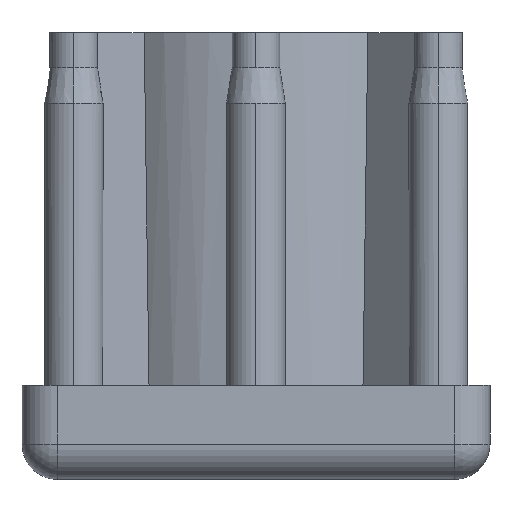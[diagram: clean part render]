
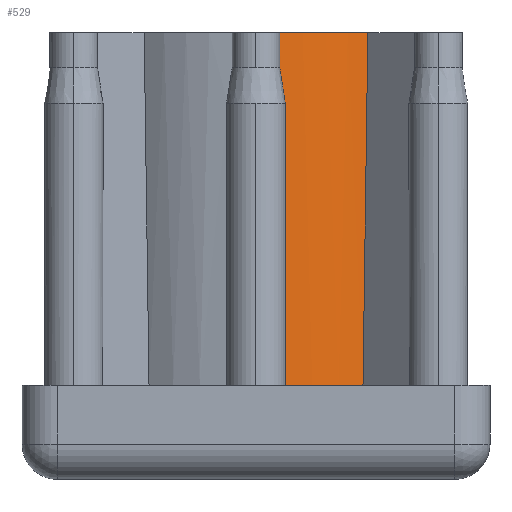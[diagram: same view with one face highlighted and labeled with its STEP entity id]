
A CAD part, left-side view. The second image highlights one B-rep face of the part: STEP entity #529.
In plain terms, the highlighted cylindrical face has radius 15 mm (diameter 30 mm), a partial arc.
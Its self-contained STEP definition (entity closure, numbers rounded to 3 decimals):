
#197 = EDGE_LOOP ( 'NONE', ( #2560, #943, #1247, #2655, #2478, #2258 ) ) ;
#248 = VERTEX_POINT ( 'NONE', #1844 ) ;
#350 = CARTESIAN_POINT ( 'NONE',  ( -798.546, -559.951, 30. ) ) ;
#414 = DIRECTION ( 'NONE',  ( 0., 0., 1. ) ) ;
#429 = CARTESIAN_POINT ( 'NONE',  ( -801.753, -552.84, 24. ) ) ;
#457 = LINE ( 'NONE', #2411, #655 ) ;
#529 = ADVANCED_FACE ( 'NONE', ( #1691 ), #2674, .T. ) ;
#596 = EDGE_CURVE ( 'NONE', #2660, #1196, #2846, .T. ) ;
#604 = CARTESIAN_POINT ( 'NONE',  ( -798.657, -559.815, 19.98 ) ) ;
#628 = CARTESIAN_POINT ( 'NONE',  ( -786.947, -550.44, 30. ) ) ;
#650 = AXIS2_PLACEMENT_3D ( 'NONE', #2481, #917, #1695 ) ;
#655 = VECTOR ( 'NONE', #2684, 1000. ) ;
#678 = CARTESIAN_POINT ( 'NONE',  ( -801.753, -552.84, 15. ) ) ;
#716 = AXIS2_PLACEMENT_3D ( 'NONE', #2767, #414, #2264 ) ;
#917 = DIRECTION ( 'NONE',  ( 0., 0., 1. ) ) ;
#943 = ORIENTED_EDGE ( 'NONE', *, *, #1917, .T. ) ;
#963 = VERTEX_POINT ( 'NONE', #1147 ) ;
#1147 = CARTESIAN_POINT ( 'NONE',  ( -801.753, -552.84, 0. ) ) ;
#1196 = VERTEX_POINT ( 'NONE', #2573 ) ;
#1221 = CARTESIAN_POINT ( 'NONE',  ( -801.823, -552.364, 27. ) ) ;
#1243 = CARTESIAN_POINT ( 'NONE',  ( -801.823, -552.364, 27. ) ) ;
#1247 = ORIENTED_EDGE ( 'NONE', *, *, #596, .T. ) ;
#1419 = EDGE_CURVE ( 'NONE', #248, #2841, #1742, .T. ) ;
#1577 = CARTESIAN_POINT ( 'NONE',  ( -801.823, -552.364, 30. ) ) ;
#1691 = FACE_OUTER_BOUND ( 'NONE', #197, .T. ) ;
#1695 = DIRECTION ( 'NONE',  ( 1., 0., 0. ) ) ;
#1715 = LINE ( 'NONE', #678, #2122 ) ;
#1742 =( BOUNDED_CURVE ( )  B_SPLINE_CURVE ( 3, ( #350, #604, #2977, #3239 ),
 .UNSPECIFIED., .F., .T. ) 
 B_SPLINE_CURVE_WITH_KNOTS ( ( 4, 4 ),
 ( -1., 0. ),
 .UNSPECIFIED. ) 
 CURVE ( )  GEOMETRIC_REPRESENTATION_ITEM ( )  RATIONAL_B_SPLINE_CURVE ( ( 1., 1., 1., 1. ) ) 
 REPRESENTATION_ITEM ( '' )  );
#1831 = CIRCLE ( 'NONE', #650, 15. ) ;
#1844 = CARTESIAN_POINT ( 'NONE',  ( -798.546, -559.951, 30. ) ) ;
#1917 = EDGE_CURVE ( 'NONE', #2384, #2660, #457, .T. ) ;
#1970 = DIRECTION ( 'NONE',  ( 0., 0., -1. ) ) ;
#2016 = EDGE_CURVE ( 'NONE', #2384, #248, #3291, .T. ) ;
#2122 = VECTOR ( 'NONE', #2627, 1000. ) ;
#2258 = ORIENTED_EDGE ( 'NONE', *, *, #1419, .F. ) ;
#2264 = DIRECTION ( 'NONE',  ( 1., 0., 0. ) ) ;
#2280 = CARTESIAN_POINT ( 'NONE',  ( -801.802, -552.524, 26. ) ) ;
#2384 = VERTEX_POINT ( 'NONE', #1577 ) ;
#2411 = CARTESIAN_POINT ( 'NONE',  ( -801.823, -552.364, 15. ) ) ;
#2466 = DIRECTION ( 'NONE',  ( -1., 0., 0. ) ) ;
#2478 = ORIENTED_EDGE ( 'NONE', *, *, #3132, .T. ) ;
#2481 = CARTESIAN_POINT ( 'NONE',  ( -786.947, -550.44, 0. ) ) ;
#2560 = ORIENTED_EDGE ( 'NONE', *, *, #2016, .F. ) ;
#2573 = CARTESIAN_POINT ( 'NONE',  ( -801.753, -552.84, 24. ) ) ;
#2593 = CARTESIAN_POINT ( 'NONE',  ( -798.873, -559.538, 0. ) ) ;
#2627 = DIRECTION ( 'NONE',  ( 0., 0., -1. ) ) ;
#2655 = ORIENTED_EDGE ( 'NONE', *, *, #3227, .T. ) ;
#2660 = VERTEX_POINT ( 'NONE', #1243 ) ;
#2674 = CYLINDRICAL_SURFACE ( 'NONE', #3337, 15. ) ;
#2684 = DIRECTION ( 'NONE',  ( 0., 0., -1. ) ) ;
#2767 = CARTESIAN_POINT ( 'NONE',  ( -786.947, -550.44, 30. ) ) ;
#2805 = CARTESIAN_POINT ( 'NONE',  ( -801.779, -552.683, 25. ) ) ;
#2841 = VERTEX_POINT ( 'NONE', #2593 ) ;
#2846 = B_SPLINE_CURVE_WITH_KNOTS ( 'NONE', 3,
 ( #1221, #2280, #2805, #429 ),
 .UNSPECIFIED., .F., .F.,
 ( 4, 4 ),
 ( 0., 1. ),
 .UNSPECIFIED. ) ;
#2977 = CARTESIAN_POINT ( 'NONE',  ( -798.766, -559.677, 9.979 ) ) ;
#3132 = EDGE_CURVE ( 'NONE', #963, #2841, #1831, .T. ) ;
#3227 = EDGE_CURVE ( 'NONE', #1196, #963, #1715, .T. ) ;
#3239 = CARTESIAN_POINT ( 'NONE',  ( -798.873, -559.538, 0. ) ) ;
#3291 = CIRCLE ( 'NONE', #716, 15. ) ;
#3337 = AXIS2_PLACEMENT_3D ( 'NONE', #628, #1970, #2466 ) ;
